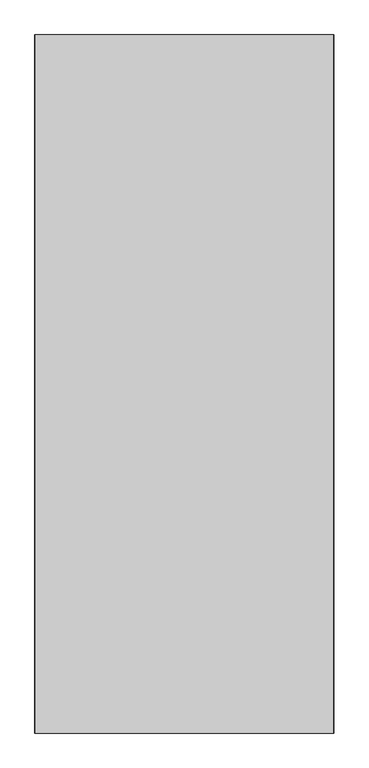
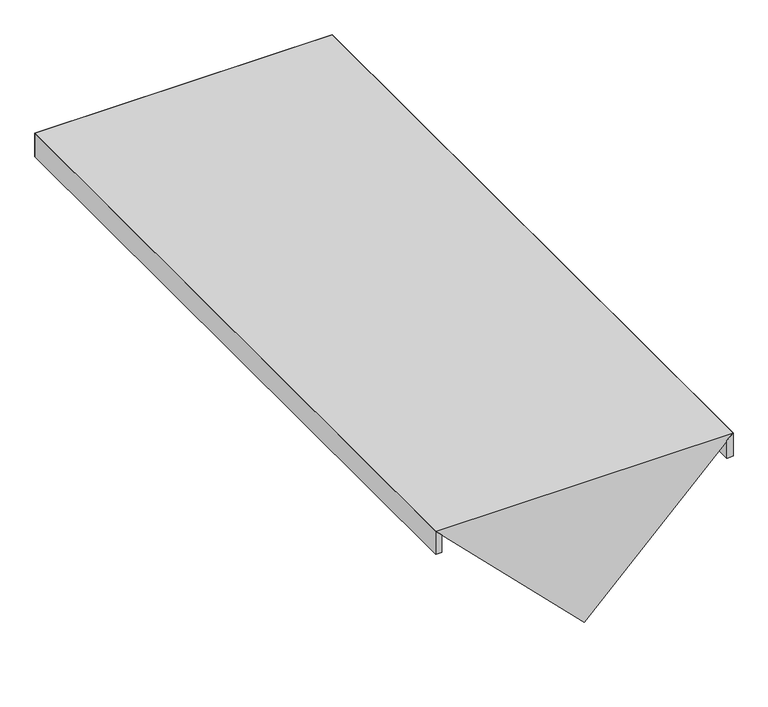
"""IFC4 building model written with IfcOpenShell, lengths in millimetres: proxy geometry, AERO^STANDARD CREDENZA_WALL HUNG W SHELVES-84 WOOD WALL."""

from ifc_helpers import new_model, si_unit, origin, place, context, project, spatial, faceted_brep, source, transform, mapped, element, save


def generic_models_ebc7bf58(model_context):
    return source(origin(), model_context, "Body", "Brep", [
        faceted_brep([(914.4, 2133.6, -57.15), (914.4, 2133.6, 19.05), (914.4, 0.0, 19.05), (914.4, 0.0, -57.15), (895.35, 2114.55, 0.0), (895.35, 0.0, 0.0), (895.35, 2114.55, -57.15), (895.35, 0.0, -57.15)], [[[0, 1, 2, 3]], [[1, 4, 5, 2]], [[4, 6, 7, 5]], [[6, 0, 3, 7]], [[3, 2, 5, 7]], [[4, 1, 0, 6]]]),
        faceted_brep([(19.05, 2114.55, -57.15), (19.05, 2114.55, 0.0), (19.05, 0.0, 0.0), (19.05, 0.0, -57.15), (0.0, 2133.6, 19.05), (0.0, 0.0, 19.05), (0.0, 2133.6, -57.15), (0.0, 0.0, -57.15)], [[[0, 1, 2, 3]], [[1, 4, 5, 2]], [[4, 6, 7, 5]], [[6, 0, 3, 7]], [[3, 2, 5, 7]], [[4, 1, 0, 6]]]),
        faceted_brep([(914.4, 0.0, 19.05), (457.2, 0.0, -438.15), (457.2, 1676.4, -438.15), (914.4, 2133.6, 19.05), (0.0, 0.0, 19.05), (0.0, 2133.6, 19.05)], [[[0, 1, 2, 3]], [[1, 0, 4]], [[3, 2, 5]], [[1, 4, 5, 2]], [[0, 3, 5, 4]]]),
        faceted_brep([(0.0, 2133.6, -57.15), (19.05, 2114.55, -57.15), (19.05, 2114.55, 0.0), (0.0, 2133.6, 19.05), (895.35, 2114.55, -57.15), (895.35, 2114.55, 0.0), (914.4, 2133.6, -57.15), (914.4, 2133.6, 19.05)], [[[0, 1, 2, 3]], [[2, 1, 4, 5]], [[1, 0, 6, 4]], [[4, 6, 7, 5]], [[0, 3, 7, 6]], [[3, 2, 5, 7]]]),
    ])


if __name__ == "__main__":
    model = new_model("IFC4")
    model_context = context("Model", 3, world=origin())
    ifc_project = project(units=[si_unit("LENGTHUNIT", "METRE", prefix="MILLI")], contexts=[model_context])
    site = spatial("IfcSite", under=ifc_project)
    building = spatial("IfcBuilding", under=site)
    placement = place(None, origin())
    generic_models_shape = generic_models_ebc7bf58(model_context)
    element("IfcBuildingElementProxy", 1, Name="AERO^STANDARD CREDENZA_WALL HUNG W SHELVES-84 WOOD WALL", ObjectType="AERO^STANDARD CREDENZA_WALL HUNG W SHELVES-84 WOOD WALL", at=placement, inside=building, context=model_context, shape_type="MappedRepresentation", body=[
        mapped(generic_models_shape, transform((0.0, 0.0, 0.0), x_axis=(1.0, 0.0, 0.0), y_axis=(0.0, 1.0, 0.0), z_axis=(0.0, 0.0, 1.0))),
    ])
    save(model, "model.ifc")
